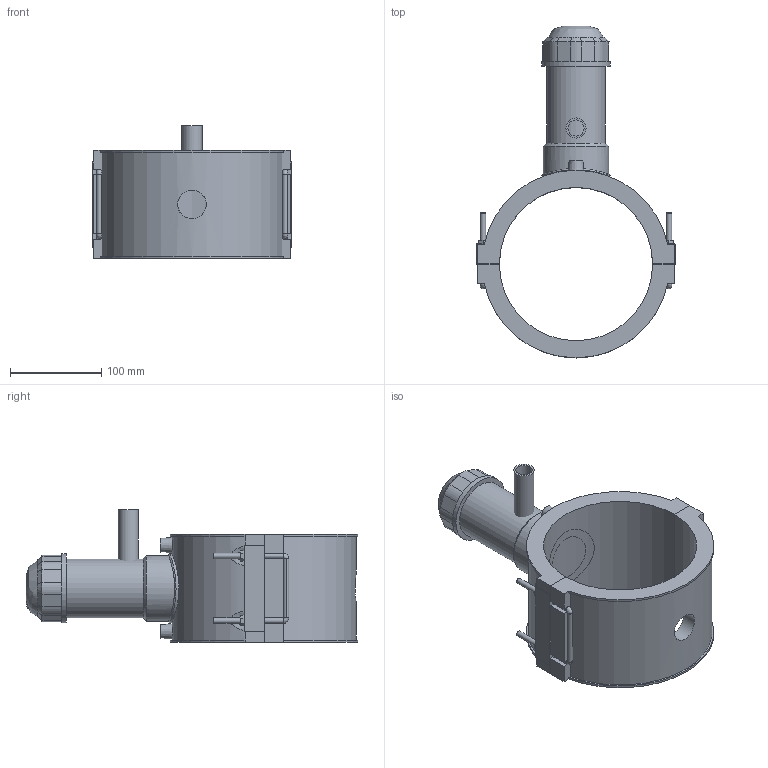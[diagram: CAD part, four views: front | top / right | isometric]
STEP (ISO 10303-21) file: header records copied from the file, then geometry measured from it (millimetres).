
FILE_DESCRIPTION(/* description */ ('PLASSON TAPPING SADDLE 6''''IPS x 3/4''''CTS'),/* implementation_level */ '2;1');
FILE_NAME(/* name */ 'C:\Dropbox\KIMPROJECTS-Inventor 2019\99-16-3568-Processing Inch\ASTM ElectroFusion 2021\5963BBP_5963BUP\5963BUP3060007.ipt.stp',/* time_stamp */ '2021-08-30T09:57:53+03:00',/* author */ ('KIM'),/* organization */ (''),/* preprocessor_version */ 'ST-DEVELOPER v17.2',/* originating_system */ 'Autodesk Inventor 2019',/* authorisation */ '');
FILE_SCHEMA (('AUTOMOTIVE_DESIGN { 1 0 10303 214 3 1 1 }'));
Length unit declared in the file: inch
Products named in the file (1): 5963BUP3060007
Bounding box: 217.9 x 363.85 x 145.16 mm (x, y, z)
Volume: 1604160.9 mm3; surface area: 268617.6 mm2
Topology: 3 solids, 3 shells, 187 faces, 489 edges, 313 vertices
Faces by surface type: plane 115, cylinder 47, cone 15, bspline 10
Full cylindrical faces by diameter (mm): 4 x2, 6 x8, 10 x2, 17.68 x1, 22.1 x1, 31.36 x1, 52.92 x1, 64.26 x1, 71.82 x1, 75.6 x2
Entity records: 6744 total; most frequent: CARTESIAN_POINT 2109, ORIENTED_EDGE 962, DIRECTION 932, EDGE_CURVE 481, AXIS2_PLACEMENT_3D 315, VERTEX_POINT 313, LINE 302, VECTOR 302
